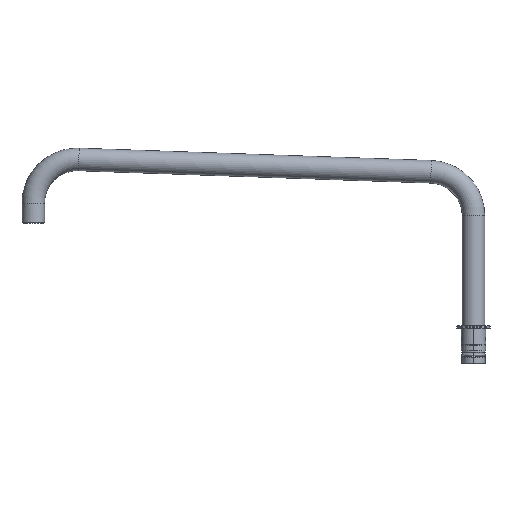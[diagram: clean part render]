
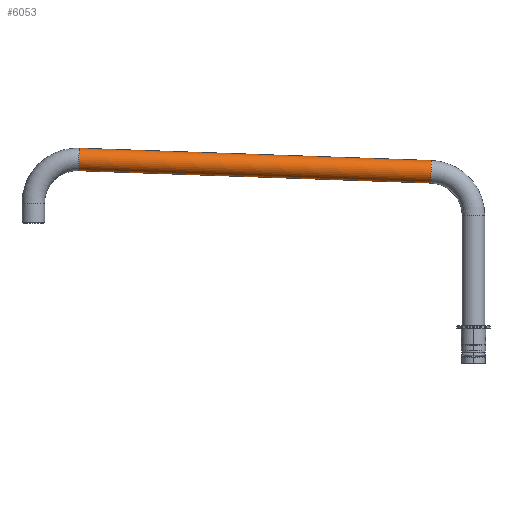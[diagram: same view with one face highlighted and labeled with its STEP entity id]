
A CAD part, top view. The second image highlights one B-rep face of the part: STEP entity #6053.
In plain terms, the highlighted cylindrical face has radius 10.25 mm (diameter 20.5 mm), a partial arc.
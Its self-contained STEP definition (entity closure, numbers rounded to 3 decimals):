
#1980=DIRECTION('',(-0.999,0.035,0.));
#1981=VECTOR('',#1980,320.195);
#1982=CARTESIAN_POINT('',(-38.246,152.419,0.));
#1983=LINE('',#1982,#1981);
#1984=CARTESIAN_POINT('',(-38.604,142.176,0.));
#1985=DIRECTION('',(-0.999,0.035,0.));
#1986=DIRECTION('',(-0.035,-0.999,0.));
#1987=AXIS2_PLACEMENT_3D('',#1984,#1985,#1986);
#1989=DIRECTION('',(-0.999,0.035,0.));
#1990=VECTOR('',#1989,320.195);
#1991=CARTESIAN_POINT('',(-38.962,131.932,0.));
#1992=LINE('',#1991,#1990);
#1993=CARTESIAN_POINT('',(-358.604,153.35,0.));
#1994=DIRECTION('',(-0.999,0.035,0.));
#1995=DIRECTION('',(-0.035,-0.999,0.));
#1996=AXIS2_PLACEMENT_3D('',#1993,#1994,#1995);
#2567=CARTESIAN_POINT('',(-38.246,152.419,0.));
#2568=CARTESIAN_POINT('',(-38.962,131.932,0.));
#2569=VERTEX_POINT('',#2567);
#2570=VERTEX_POINT('',#2568);
#2571=CARTESIAN_POINT('',(-358.246,163.594,0.));
#2572=CARTESIAN_POINT('',(-358.962,143.107,0.));
#2573=VERTEX_POINT('',#2571);
#2574=VERTEX_POINT('',#2572);
#6041=CARTESIAN_POINT('',(-38.604,142.176,0.));
#6042=DIRECTION('',(-0.999,0.035,0.));
#6043=DIRECTION('',(0.035,0.999,0.));
#6044=AXIS2_PLACEMENT_3D('',#6041,#6042,#6043);
#6045=CYLINDRICAL_SURFACE('',#6044,10.25);
#6046=ORIENTED_EDGE('',*,*,#5985,.F.);
#6047=ORIENTED_EDGE('',*,*,#6029,.T.);
#6049=ORIENTED_EDGE('',*,*,#6048,.T.);
#6050=ORIENTED_EDGE('',*,*,#6025,.F.);
#6051=EDGE_LOOP('',(#6046,#6047,#6049,#6050));
#6052=FACE_OUTER_BOUND('',#6051,.F.);
#1988=CIRCLE('',#1987,10.25);
#1997=CIRCLE('',#1996,10.25);
#5985=EDGE_CURVE('',#2570,#2569,#1988,.T.);
#6025=EDGE_CURVE('',#2569,#2573,#1983,.T.);
#6029=EDGE_CURVE('',#2570,#2574,#1992,.T.);
#6048=EDGE_CURVE('',#2574,#2573,#1997,.T.);
#6053=ADVANCED_FACE('',(#6052),#6045,.T.);
